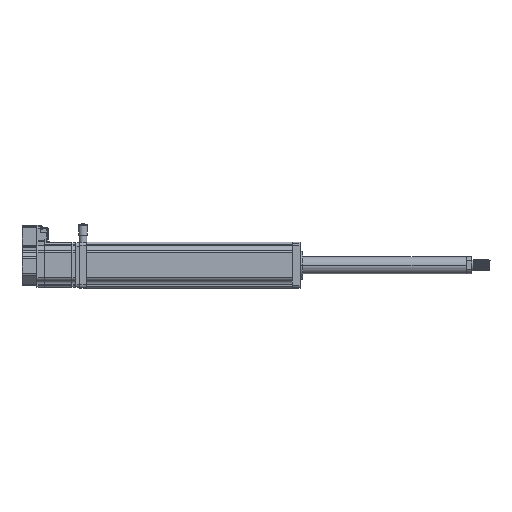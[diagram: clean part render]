
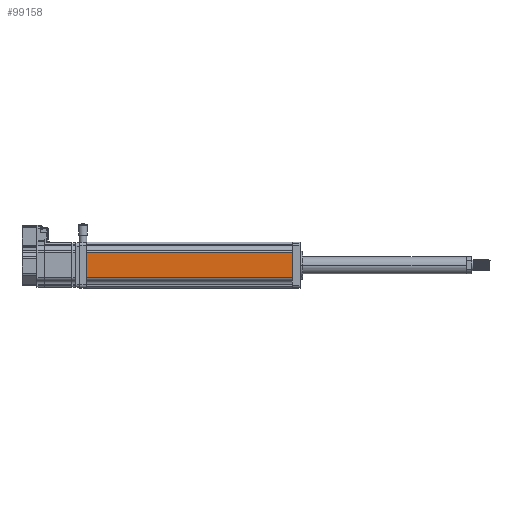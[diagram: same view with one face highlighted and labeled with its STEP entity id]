
A CAD part, front view. The second image highlights one B-rep face of the part: STEP entity #99158.
In plain terms, the highlighted planar face has unit normal (0, -1, 0).
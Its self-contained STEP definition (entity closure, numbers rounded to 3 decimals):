
#97279 = PLANE('',#97280);
#97280 = AXIS2_PLACEMENT_3D('',#97281,#97282,#97283);
#97281 = CARTESIAN_POINT('',(604.,20.655,
    -44.547));
#97282 = DIRECTION('',(-1.,0.,0.));
#97283 = DIRECTION('',(0.,-1.,0.));
#97340 = PLANE('',#97341);
#97341 = AXIS2_PLACEMENT_3D('',#97342,#97343,#97344);
#97342 = CARTESIAN_POINT('',(864.,20.655,
    -44.547));
#97343 = DIRECTION('',(-1.,0.,0.));
#97344 = DIRECTION('',(0.,-1.,0.));
#97722 = VERTEX_POINT('',#97723);
#97723 = CARTESIAN_POINT('',(864.,-37.345,
    -31.547));
#97731 = CYLINDRICAL_SURFACE('',#97732,2.5);
#97732 = AXIS2_PLACEMENT_3D('',#97733,#97734,#97735);
#97733 = CARTESIAN_POINT('',(604.,-34.845,
    -31.547));
#97734 = DIRECTION('',(-1.,0.,0.));
#97735 = DIRECTION('',(0.,-1.,0.));
#97750 = EDGE_CURVE('',#97722,#97751,#97753,.T.);
#97751 = VERTEX_POINT('',#97752);
#97752 = CARTESIAN_POINT('',(604.,-37.345,
    -31.547));
#97753 = SURFACE_CURVE('',#97754,(#97758,#97765),.PCURVE_S1.);
#97754 = LINE('',#97755,#97756);
#97755 = CARTESIAN_POINT('',(734.,-37.345,
    -31.547));
#97756 = VECTOR('',#97757,1.);
#97757 = DIRECTION('',(-1.,0.,0.));
#97758 = PCURVE('',#97731,#97759);
#97759 = DEFINITIONAL_REPRESENTATION('',(#97760),#97764);
#97760 = LINE('',#97761,#97762);
#97761 = CARTESIAN_POINT('',(6.283,-130.));
#97762 = VECTOR('',#97763,1.);
#97763 = DIRECTION('',(0.,1.));
#97764 = ( GEOMETRIC_REPRESENTATION_CONTEXT(2) 
PARAMETRIC_REPRESENTATION_CONTEXT() REPRESENTATION_CONTEXT('2D SPACE',''
  ) );
#97765 = PCURVE('',#97766,#97771);
#97766 = PLANE('',#97767);
#97767 = AXIS2_PLACEMENT_3D('',#97768,#97769,#97770);
#97768 = CARTESIAN_POINT('',(864.,-37.345,
    -31.547));
#97769 = DIRECTION('',(0.,1.,0.));
#97770 = DIRECTION('',(-1.,0.,0.));
#97771 = DEFINITIONAL_REPRESENTATION('',(#97772),#97776);
#97772 = LINE('',#97773,#97774);
#97773 = CARTESIAN_POINT('',(130.,0.));
#97774 = VECTOR('',#97775,1.);
#97775 = DIRECTION('',(1.,0.));
#97776 = ( GEOMETRIC_REPRESENTATION_CONTEXT(2) 
PARAMETRIC_REPRESENTATION_CONTEXT() REPRESENTATION_CONTEXT('2D SPACE',''
  ) );
#97838 = VERTEX_POINT('',#97839);
#97839 = CARTESIAN_POINT('',(604.,-37.345,
    0.453));
#97847 = CYLINDRICAL_SURFACE('',#97848,2.5);
#97848 = AXIS2_PLACEMENT_3D('',#97849,#97850,#97851);
#97849 = CARTESIAN_POINT('',(864.,-34.845,
    0.453));
#97850 = DIRECTION('',(1.,0.,0.));
#97851 = DIRECTION('',(0.,-1.,0.));
#97870 = EDGE_CURVE('',#97838,#97871,#97873,.T.);
#97871 = VERTEX_POINT('',#97872);
#97872 = CARTESIAN_POINT('',(864.,-37.345,
    0.453));
#97873 = SURFACE_CURVE('',#97874,(#97878,#97885),.PCURVE_S1.);
#97874 = LINE('',#97875,#97876);
#97875 = CARTESIAN_POINT('',(734.,-37.345,
    0.453));
#97876 = VECTOR('',#97877,1.);
#97877 = DIRECTION('',(1.,0.,0.));
#97878 = PCURVE('',#97847,#97879);
#97879 = DEFINITIONAL_REPRESENTATION('',(#97880),#97884);
#97880 = LINE('',#97881,#97882);
#97881 = CARTESIAN_POINT('',(6.283,-130.));
#97882 = VECTOR('',#97883,1.);
#97883 = DIRECTION('',(0.,1.));
#97884 = ( GEOMETRIC_REPRESENTATION_CONTEXT(2) 
PARAMETRIC_REPRESENTATION_CONTEXT() REPRESENTATION_CONTEXT('2D SPACE',''
  ) );
#97885 = PCURVE('',#97766,#97886);
#97886 = DEFINITIONAL_REPRESENTATION('',(#97887),#97891);
#97887 = LINE('',#97888,#97889);
#97888 = CARTESIAN_POINT('',(130.,32.));
#97889 = VECTOR('',#97890,1.);
#97890 = DIRECTION('',(-1.,0.));
#97891 = ( GEOMETRIC_REPRESENTATION_CONTEXT(2) 
PARAMETRIC_REPRESENTATION_CONTEXT() REPRESENTATION_CONTEXT('2D SPACE',''
  ) );
#98594 = EDGE_CURVE('',#97871,#97722,#98595,.T.);
#98595 = SURFACE_CURVE('',#98596,(#98600,#98607),.PCURVE_S1.);
#98596 = LINE('',#98597,#98598);
#98597 = CARTESIAN_POINT('',(864.,-37.345,
    -15.547));
#98598 = VECTOR('',#98599,1.);
#98599 = DIRECTION('',(0.,0.,-1.));
#98600 = PCURVE('',#97340,#98601);
#98601 = DEFINITIONAL_REPRESENTATION('',(#98602),#98606);
#98602 = LINE('',#98603,#98604);
#98603 = CARTESIAN_POINT('',(58.,29.));
#98604 = VECTOR('',#98605,1.);
#98605 = DIRECTION('',(0.,-1.));
#98606 = ( GEOMETRIC_REPRESENTATION_CONTEXT(2) 
PARAMETRIC_REPRESENTATION_CONTEXT() REPRESENTATION_CONTEXT('2D SPACE',''
  ) );
#98607 = PCURVE('',#97766,#98608);
#98608 = DEFINITIONAL_REPRESENTATION('',(#98609),#98613);
#98609 = LINE('',#98610,#98611);
#98610 = CARTESIAN_POINT('',(0.,16.));
#98611 = VECTOR('',#98612,1.);
#98612 = DIRECTION('',(0.,-1.));
#98613 = ( GEOMETRIC_REPRESENTATION_CONTEXT(2) 
PARAMETRIC_REPRESENTATION_CONTEXT() REPRESENTATION_CONTEXT('2D SPACE',''
  ) );
#98893 = EDGE_CURVE('',#97751,#97838,#98894,.T.);
#98894 = SURFACE_CURVE('',#98895,(#98899,#98906),.PCURVE_S1.);
#98895 = LINE('',#98896,#98897);
#98896 = CARTESIAN_POINT('',(604.,-37.345,
    -15.547));
#98897 = VECTOR('',#98898,1.);
#98898 = DIRECTION('',(0.,0.,1.));
#98899 = PCURVE('',#97279,#98900);
#98900 = DEFINITIONAL_REPRESENTATION('',(#98901),#98905);
#98901 = LINE('',#98902,#98903);
#98902 = CARTESIAN_POINT('',(58.,29.));
#98903 = VECTOR('',#98904,1.);
#98904 = DIRECTION('',(0.,1.));
#98905 = ( GEOMETRIC_REPRESENTATION_CONTEXT(2) 
PARAMETRIC_REPRESENTATION_CONTEXT() REPRESENTATION_CONTEXT('2D SPACE',''
  ) );
#98906 = PCURVE('',#97766,#98907);
#98907 = DEFINITIONAL_REPRESENTATION('',(#98908),#98912);
#98908 = LINE('',#98909,#98910);
#98909 = CARTESIAN_POINT('',(260.,16.));
#98910 = VECTOR('',#98911,1.);
#98911 = DIRECTION('',(0.,1.));
#98912 = ( GEOMETRIC_REPRESENTATION_CONTEXT(2) 
PARAMETRIC_REPRESENTATION_CONTEXT() REPRESENTATION_CONTEXT('2D SPACE',''
  ) );
#99158 = ADVANCED_FACE('',(#99159),#97766,.F.);
#99159 = FACE_BOUND('',#99160,.T.);
#99160 = EDGE_LOOP('',(#99161,#99162,#99163,#99164));
#99161 = ORIENTED_EDGE('',*,*,#97750,.F.);
#99162 = ORIENTED_EDGE('',*,*,#98594,.F.);
#99163 = ORIENTED_EDGE('',*,*,#97870,.F.);
#99164 = ORIENTED_EDGE('',*,*,#98893,.F.);
